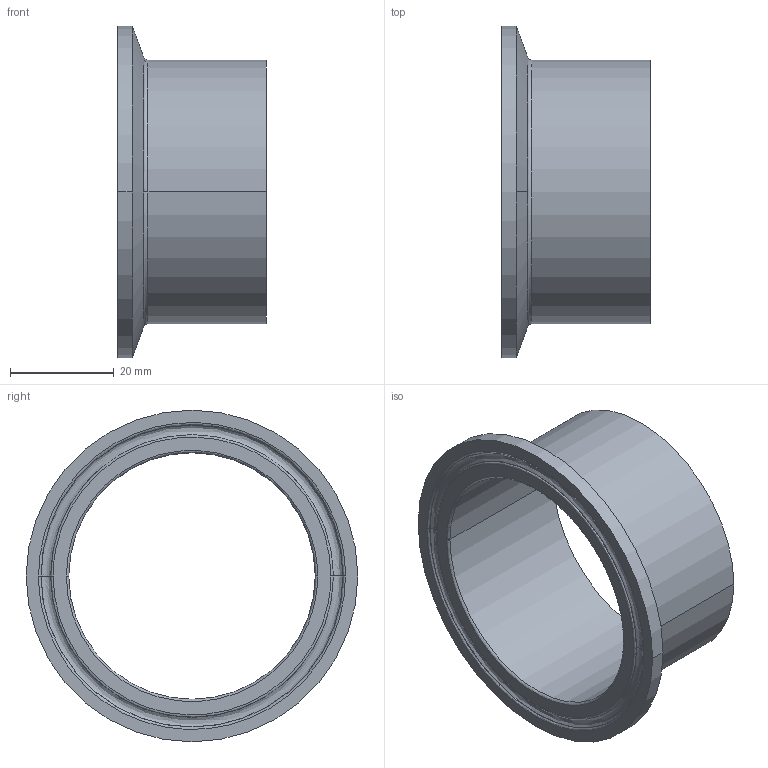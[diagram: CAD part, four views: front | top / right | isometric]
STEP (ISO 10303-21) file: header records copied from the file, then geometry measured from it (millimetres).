
FILE_DESCRIPTION (( 'STEP AP214' ), '1' );
FILE_NAME ('TEG14BM76L2.0.STEP', '2016-05-23T04:07:27', ( 'eran' ), ( '' ), 'SwSTEP 2.0', 'SolidWorks 2016', '' );
FILE_SCHEMA (( 'AUTOMOTIVE_DESIGN' ));
Length unit declared in the file: millimetre
Products named in the file (1): TEG14BM76L2.0
Bounding box: 28.7 x 63.91 x 63.91 mm (x, y, z)
Volume: 11806.8 mm3; surface area: 11594.1 mm2
Topology: 1 solids, 1 shells, 25 faces, 62 edges, 40 vertices
Faces by surface type: bspline 10, cylinder 6, cone 6, plane 3
Entity records: 1463 total; most frequent: CARTESIAN_POINT 838, DIRECTION 132, ORIENTED_EDGE 124, EDGE_CURVE 62, AXIS2_PLACEMENT_3D 60, CIRCLE 44, VERTEX_POINT 40, EDGE_LOOP 28
